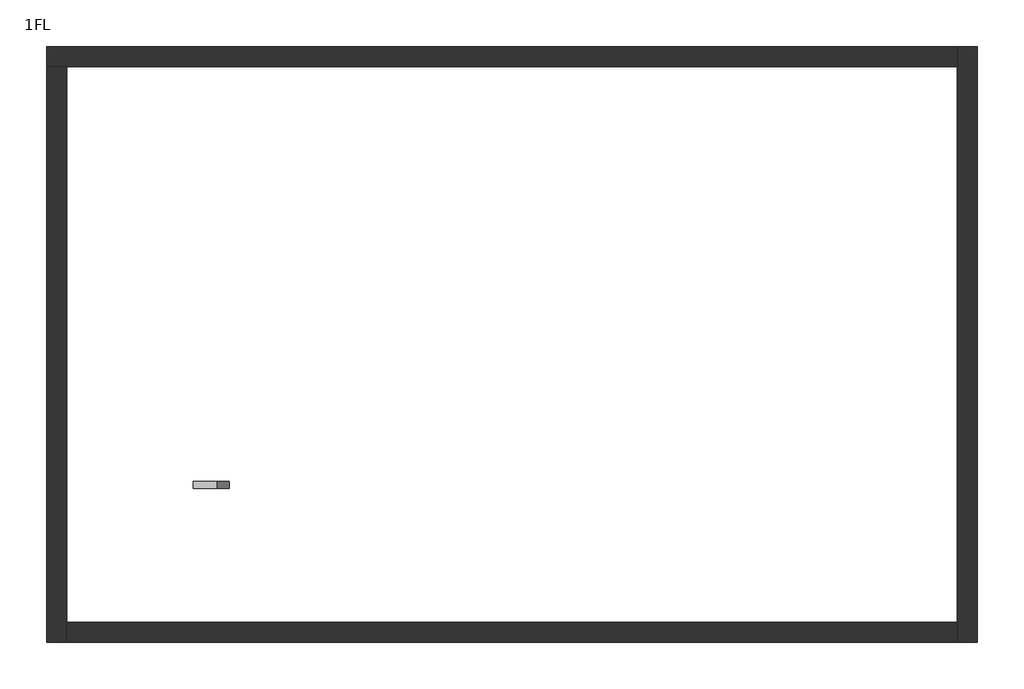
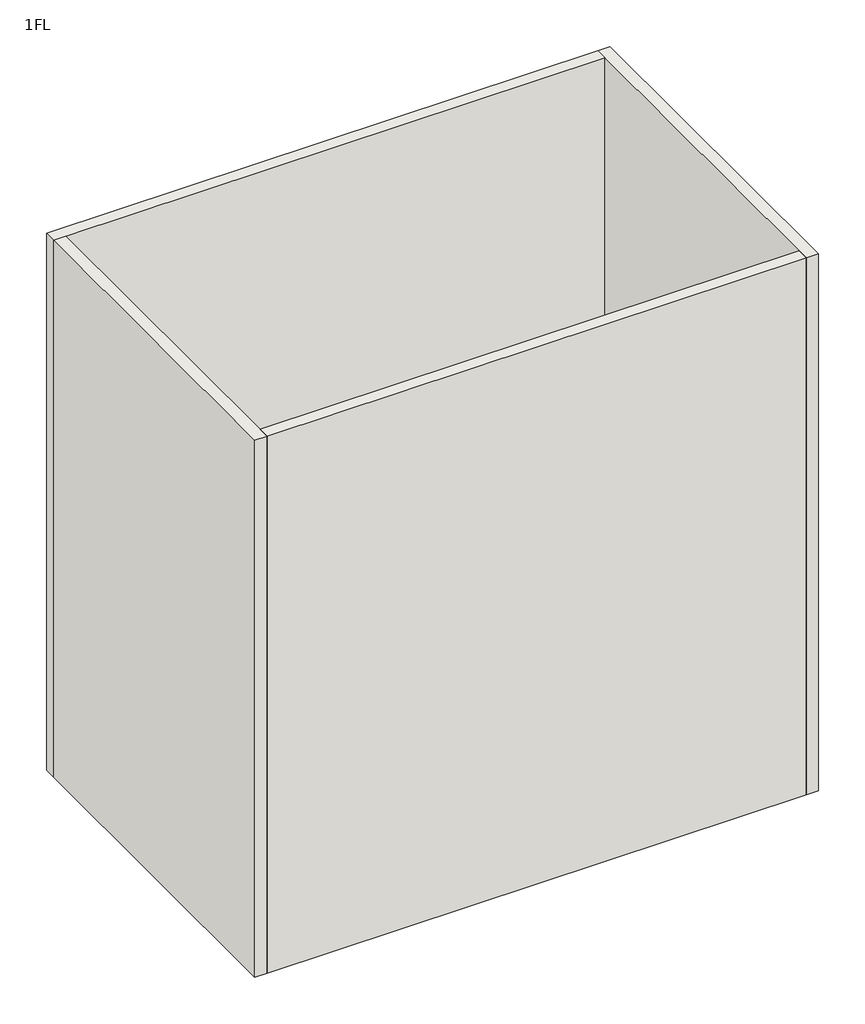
# One storey: 4 walls, 1 railing.
"""IFC4 building model written with IfcOpenShell, lengths in millimetres."""

from ifc_helpers import new_model, si_unit, origin, origin_with_axes, place, context, project, spatial, polyline, outline, extrude, faceted_brep, transform, mapped, element, save
from components import railing_cf06b474

model = new_model("IFC4")

# Units and contexts
model_context = context("Model", 3, world=origin())
ifc_project = project(units=[si_unit("LENGTHUNIT", "METRE", prefix="MILLI")], contexts=[model_context])

# Site, building, storey
site = spatial("IfcSite", under=ifc_project)
building = spatial("IfcBuilding", under=site)
storey = spatial("IfcBuildingStorey", under=building, Name="1FL", Elevation=0.0)

# Railing
placement = place(None, origin())
railing_shape = railing_cf06b474(model_context)
element("IfcRailing", 1, ObjectType="900mm 方管", at=placement, inside=storey, context=model_context, shape_type="MappedRepresentation", body=[
    mapped(railing_shape, transform((0.0, 0.0, 0.0), x_axis=(1.0, 0.0, 0.0), y_axis=(0.0, 1.0, 0.0), z_axis=(0.0, 0.0, 1.0))),
])

# Walls
element("IfcWall", 2, ObjectType="RC牆 15cm", at=placement, inside=storey, context=model_context, shape_type="Brep", body=[
    faceted_brep([(-3876.4766752, 2575.3554896, 0.0), (-3726.4766752, 2575.3554896, 0.0), (2923.5233248, 2575.3554896, 0.0), (2923.5233248, 2575.3554896, 7000.0), (-3726.4766752, 2575.3554896, 7000.0), (-3876.4766752, 2575.3554896, 7000.0), (-3876.4766752, 2725.3554896, 0.0), (-3876.4766752, 2725.3554896, 7000.0), (2923.5233248, 2725.3554896, 7000.0), (2923.5233248, 2725.3554896, 0.0)], [[[0, 1, 2, 3, 4, 5]], [[6, 7, 8, 9]], [[2, 1, 0, 6, 9]], [[5, 4, 3, 8, 7]], [[0, 5, 7, 6]], [[3, 2, 9, 8]]]),
])
element("IfcWall", 3, ObjectType="RC牆 15cm", at=placement, inside=storey, context=model_context, shape_type="Brep", body=[
    faceted_brep([(-3726.4766752, -1724.6445104, 0.0), (-3726.4766752, -1574.6445104, 0.0), (-3726.4766752, 2575.3554896, 0.0), (-3726.4766752, 2575.3554896, 7000.0), (-3726.4766752, -1574.6445104, 7000.0), (-3726.4766752, -1724.6445104, 7000.0), (-3876.4766752, -1724.6445104, 0.0), (-3876.4766752, -1724.6445104, 7000.0), (-3876.4766752, 2575.3554896, 7000.0), (-3876.4766752, 2575.3554896, 0.0)], [[[0, 1, 2, 3, 4, 5]], [[6, 7, 8, 9]], [[2, 1, 0, 6, 9]], [[5, 4, 3, 8, 7]], [[0, 5, 7, 6]], [[3, 2, 9, 8]]]),
])
element("IfcWall", 4, ObjectType="RC牆 15cm", at=placement, inside=storey, context=model_context, shape_type="SweptSolid", body=[
    extrude(outline(polyline([(-3726.4766752, -1574.6445104), (2923.5233248, -1574.6445104), (2923.5233248, -1724.6445104), (-3726.4766752, -1724.6445104), (-3726.4766752, -1574.6445104)])), origin_with_axes(), (0.0, 0.0, 1.0), 7000.0),
])
element("IfcWall", 5, ObjectType="RC牆 15cm", at=placement, inside=storey, context=model_context, shape_type="Brep", body=[
    faceted_brep([(2923.5233248, 2725.3554896, 0.0), (2923.5233248, 2575.3554896, 0.0), (2923.5233248, -1574.6445104, 0.0), (2923.5233248, -1724.6445104, 0.0), (2923.5233248, -1724.6445104, 7000.0), (2923.5233248, -1574.6445104, 7000.0), (2923.5233248, 2575.3554896, 7000.0), (2923.5233248, 2725.3554896, 7000.0), (3073.5233248, 2725.3554896, 0.0), (3073.5233248, 2725.3554896, 7000.0), (3073.5233248, -1724.6445104, 7000.0), (3073.5233248, -1724.6445104, 0.0)], [[[0, 1, 2, 3, 4, 5, 6, 7]], [[8, 9, 10, 11]], [[3, 2, 1, 0, 8, 11]], [[7, 6, 5, 4, 10, 9]], [[0, 7, 9, 8]], [[4, 3, 11, 10]]]),
])

save(model, "model.ifc")
